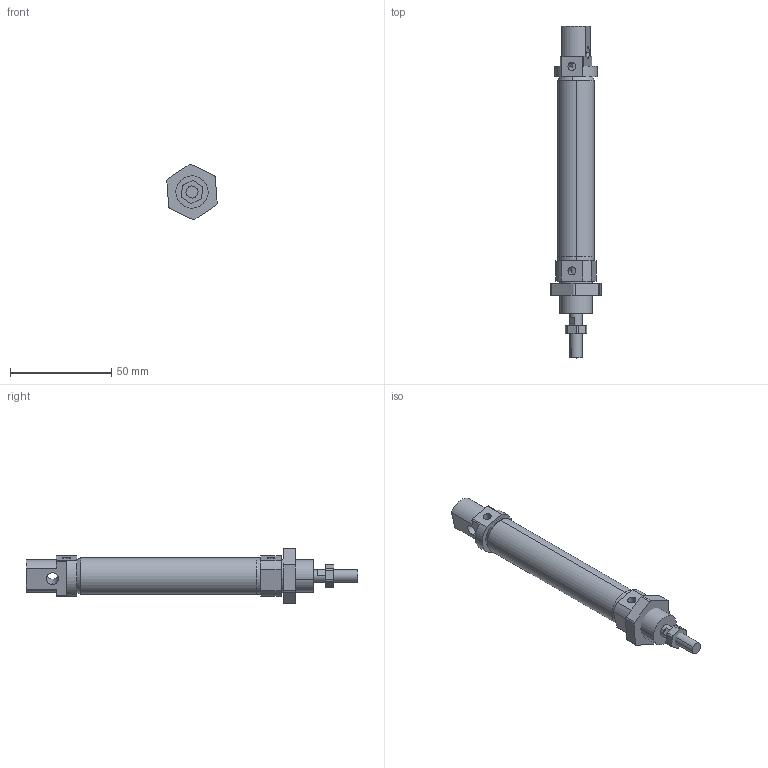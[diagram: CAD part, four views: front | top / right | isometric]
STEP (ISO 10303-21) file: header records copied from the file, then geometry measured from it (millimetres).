
FILE_DESCRIPTION (( 'STEP AP214' ), '1' );
FILE_NAME ('RMA_16_50_WEB.STEP', '2021-05-09T12:33:50', ( '' ), ( '' ), 'SwSTEP 2.0', 'SolidWorks 2021', '' );
FILE_SCHEMA (( 'AUTOMOTIVE_DESIGN' ));
Length unit declared in the file: millimetre
Products named in the file (7): RMA16CÝVATA; RMA_16_BORU_WEB; RMA16KAPAK; RMA_16_50_WEB; RMA16 KÜÇÜK CÝVATA; RMA_16_M尳_WEB; RMA16ARKA
Assembly tree (6 placements, depth 2):
  RMA_16_50_WEB
    RMA_16_BORU_WEB
    RMA16KAPAK
    RMA16ARKA
    RMA16CÝVATA
    RMA_16_M尳_WEB
    RMA16 KÜÇÜK CÝVATA
Bounding box: 24.85 x 164 x 27.33 mm (x, y, z)
Volume: 19858.3 mm3; surface area: 17666.2 mm2
Topology: 6 solids, 6 shells, 99 faces, 243 edges, 162 vertices
Faces by surface type: plane 48, cylinder 47, cone 4
Entity records: 3454 total; most frequent: CARTESIAN_POINT 571, DIRECTION 569, ORIENTED_EDGE 486, EDGE_CURVE 243, AXIS2_PLACEMENT_3D 220, VERTEX_POINT 162, LINE 129, VECTOR 129
